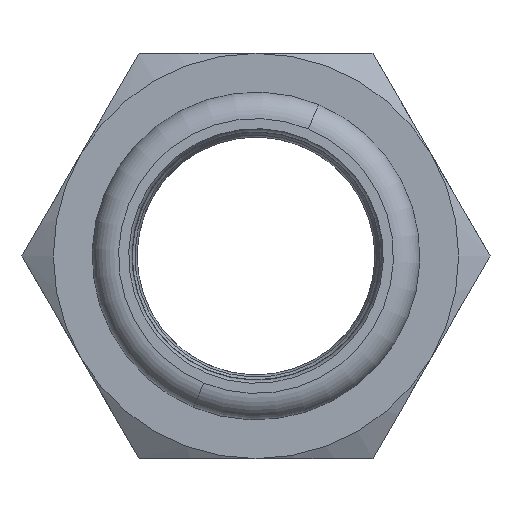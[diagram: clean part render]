
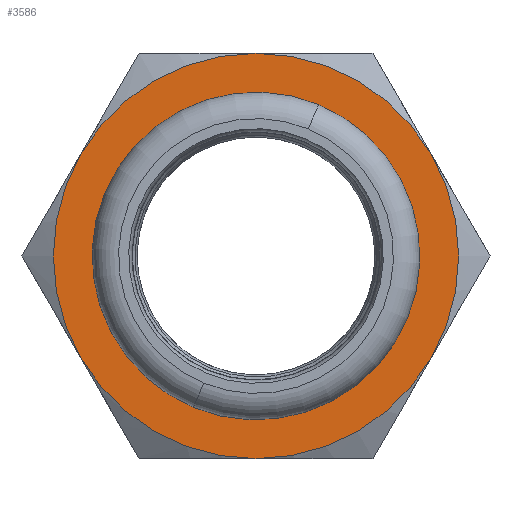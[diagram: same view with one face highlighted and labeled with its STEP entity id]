
A CAD part, left-side view. The second image highlights one B-rep face of the part: STEP entity #3586.
In plain terms, the highlighted planar face has unit normal (-1, 0, 0) as drawn and (0, 1, 0) by its records, which use the part's own axes.
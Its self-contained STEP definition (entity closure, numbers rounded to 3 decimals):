
#16 = ORIENTED_EDGE ( 'NONE', *, *, #325, .T. ) ;
#22 = DIRECTION ( 'NONE',  ( 0., 0., -1. ) ) ;
#94 = CARTESIAN_POINT ( 'NONE',  ( -19.919, 19., 11.5 ) ) ;
#143 = AXIS2_PLACEMENT_3D ( 'NONE', #3678, #682, #994 ) ;
#239 = EDGE_CURVE ( 'NONE', #967, #1864, #1325, .T. ) ;
#241 = VERTEX_POINT ( 'NONE', #1304 ) ;
#291 = ORIENTED_EDGE ( 'NONE', *, *, #1440, .T. ) ;
#325 = EDGE_CURVE ( 'NONE', #241, #967, #2472, .T. ) ;
#418 = CARTESIAN_POINT ( 'NONE',  ( 0., 19., -16. ) ) ;
#421 = VERTEX_POINT ( 'NONE', #3969 ) ;
#569 = CARTESIAN_POINT ( 'NONE',  ( 19.919, 19., -11.5 ) ) ;
#682 = DIRECTION ( 'NONE',  ( 0., 1., 0. ) ) ;
#752 = ORIENTED_EDGE ( 'NONE', *, *, #1794, .T. ) ;
#791 = CARTESIAN_POINT ( 'NONE',  ( 0., 19., 0. ) ) ;
#870 = AXIS2_PLACEMENT_3D ( 'NONE', #2772, #1461, #2390 ) ;
#875 = FACE_OUTER_BOUND ( 'NONE', #1604, .T. ) ;
#947 = AXIS2_PLACEMENT_3D ( 'NONE', #1744, #1758, #2422 ) ;
#967 = VERTEX_POINT ( 'NONE', #4295 ) ;
#994 = DIRECTION ( 'NONE',  ( 0., 0., 1. ) ) ;
#1049 = ORIENTED_EDGE ( 'NONE', *, *, #1679, .T. ) ;
#1063 = ORIENTED_EDGE ( 'NONE', *, *, #1536, .T. ) ;
#1288 = DIRECTION ( 'NONE',  ( 0., 0., -1. ) ) ;
#1304 = CARTESIAN_POINT ( 'NONE',  ( 0., 19., -23. ) ) ;
#1325 = CIRCLE ( 'NONE', #1501, 23. ) ;
#1332 = EDGE_CURVE ( 'NONE', #421, #3519, #2784, .T. ) ;
#1440 = EDGE_CURVE ( 'NONE', #2994, #241, #1880, .T. ) ;
#1453 = EDGE_CURVE ( 'NONE', #2222, #2225, #3778, .T. ) ;
#1461 = DIRECTION ( 'NONE',  ( 0., -1., 0. ) ) ;
#1501 = AXIS2_PLACEMENT_3D ( 'NONE', #2286, #2300, #1288 ) ;
#1511 = ORIENTED_EDGE ( 'NONE', *, *, #239, .T. ) ;
#1536 = EDGE_CURVE ( 'NONE', #2225, #2222, #3113, .T. ) ;
#1593 = AXIS2_PLACEMENT_3D ( 'NONE', #791, #2437, #2400 ) ;
#1604 = EDGE_LOOP ( 'NONE', ( #752, #291, #16, #1511, #1049, #2609 ) ) ;
#1620 = DIRECTION ( 'NONE',  ( 0., -1., 0. ) ) ;
#1679 = EDGE_CURVE ( 'NONE', #1864, #421, #3734, .T. ) ;
#1744 = CARTESIAN_POINT ( 'NONE',  ( 0., 19., 0. ) ) ;
#1758 = DIRECTION ( 'NONE',  ( 0., 1., 0. ) ) ;
#1788 = DIRECTION ( 'NONE',  ( 0., 1., 0. ) ) ;
#1794 = EDGE_CURVE ( 'NONE', #3519, #2994, #2045, .T. ) ;
#1864 = VERTEX_POINT ( 'NONE', #94 ) ;
#1880 = CIRCLE ( 'NONE', #947, 23. ) ;
#1938 = CARTESIAN_POINT ( 'NONE',  ( 19.919, 19., 11.5 ) ) ;
#2045 = CIRCLE ( 'NONE', #2666, 23. ) ;
#2077 = CARTESIAN_POINT ( 'NONE',  ( 0., 19., 0. ) ) ;
#2222 = VERTEX_POINT ( 'NONE', #418 ) ;
#2225 = VERTEX_POINT ( 'NONE', #3737 ) ;
#2286 = CARTESIAN_POINT ( 'NONE',  ( 0., 19., 0. ) ) ;
#2300 = DIRECTION ( 'NONE',  ( 0., 1., 0. ) ) ;
#2390 = DIRECTION ( 'NONE',  ( 0., 0., 1. ) ) ;
#2400 = DIRECTION ( 'NONE',  ( 0., 0., -1. ) ) ;
#2422 = DIRECTION ( 'NONE',  ( 1., 0., 0. ) ) ;
#2437 = DIRECTION ( 'NONE',  ( 0., 1., 0. ) ) ;
#2457 = AXIS2_PLACEMENT_3D ( 'NONE', #2912, #1620, #3981 ) ;
#2472 = CIRCLE ( 'NONE', #3084, 23. ) ;
#2494 = FACE_BOUND ( 'NONE', #2783, .T. ) ;
#2609 = ORIENTED_EDGE ( 'NONE', *, *, #1332, .T. ) ;
#2616 = ORIENTED_EDGE ( 'NONE', *, *, #1453, .T. ) ;
#2666 = AXIS2_PLACEMENT_3D ( 'NONE', #2077, #4058, #22 ) ;
#2667 = PLANE ( 'NONE',  #143 ) ;
#2772 = CARTESIAN_POINT ( 'NONE',  ( 0., 19., 0. ) ) ;
#2783 = EDGE_LOOP ( 'NONE', ( #1063, #2616 ) ) ;
#2784 = CIRCLE ( 'NONE', #3722, 23. ) ;
#2815 = DIRECTION ( 'NONE',  ( 1., 0., 0. ) ) ;
#2831 = CARTESIAN_POINT ( 'NONE',  ( 0., 19., 0. ) ) ;
#2912 = CARTESIAN_POINT ( 'NONE',  ( 0., 19., 0. ) ) ;
#2971 = CARTESIAN_POINT ( 'NONE',  ( 0., 19., 0. ) ) ;
#2994 = VERTEX_POINT ( 'NONE', #569 ) ;
#3084 = AXIS2_PLACEMENT_3D ( 'NONE', #2971, #3658, #3952 ) ;
#3113 = CIRCLE ( 'NONE', #2457, 16. ) ;
#3519 = VERTEX_POINT ( 'NONE', #1938 ) ;
#3586 = ADVANCED_FACE ( 'NONE', ( #2494, #875 ), #2667, .T. ) ;
#3658 = DIRECTION ( 'NONE',  ( 0., 1., 0. ) ) ;
#3678 = CARTESIAN_POINT ( 'NONE',  ( 0., 19., 0. ) ) ;
#3722 = AXIS2_PLACEMENT_3D ( 'NONE', #2831, #1788, #2815 ) ;
#3734 = CIRCLE ( 'NONE', #1593, 23. ) ;
#3737 = CARTESIAN_POINT ( 'NONE',  ( 0., 19., 16. ) ) ;
#3778 = CIRCLE ( 'NONE', #870, 16. ) ;
#3952 = DIRECTION ( 'NONE',  ( 1., 0., 0. ) ) ;
#3969 = CARTESIAN_POINT ( 'NONE',  ( 0., 19., 23. ) ) ;
#3981 = DIRECTION ( 'NONE',  ( 0., 0., 1. ) ) ;
#4058 = DIRECTION ( 'NONE',  ( 0., 1., 0. ) ) ;
#4295 = CARTESIAN_POINT ( 'NONE',  ( -19.919, 19., -11.5 ) ) ;
